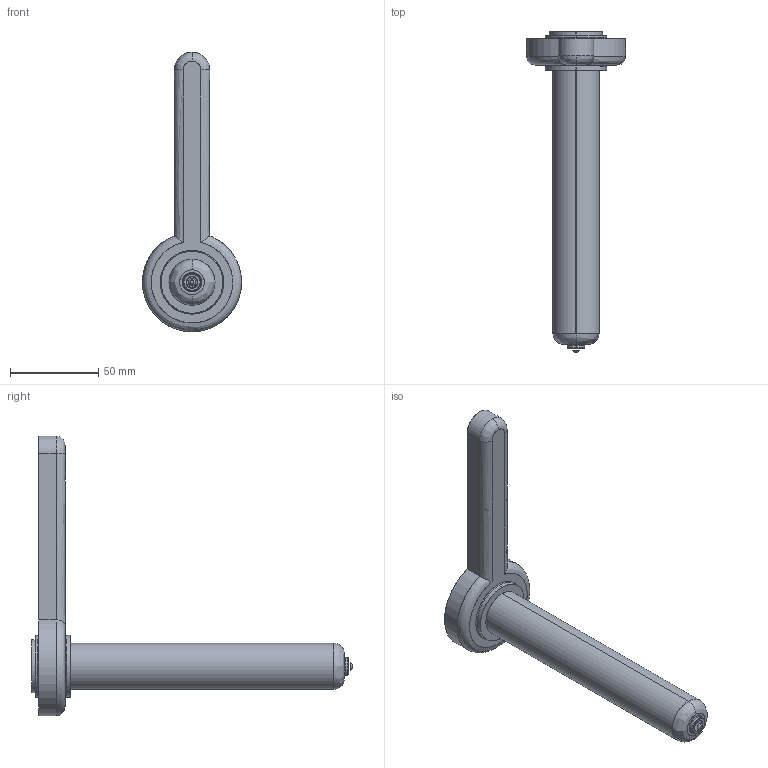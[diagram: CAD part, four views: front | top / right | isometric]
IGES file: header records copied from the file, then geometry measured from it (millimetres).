
Start section: SolidWorks IGES file using analytic representation for surfaces
Global section: file name: C:\Users\luca.EMPAD\Desktop\TEM\Sede UGEP3054-S-A C-159 L-179 Ød-2.0.IGS; native system: SolidWorks 2012; preprocessor: SolidWorks 2012; author: luca; date: 120402.152016; units: millimetre
Bounding box: 56 x 181.4 x 158 mm (x, y, z)
Surface area: 26925.7 mm2 (no closed solid volume)
Topology: 0 solids, 0 shells, 44 faces, 918 edges, 918 vertices
Faces by surface type: revolution 27, bspline 17
